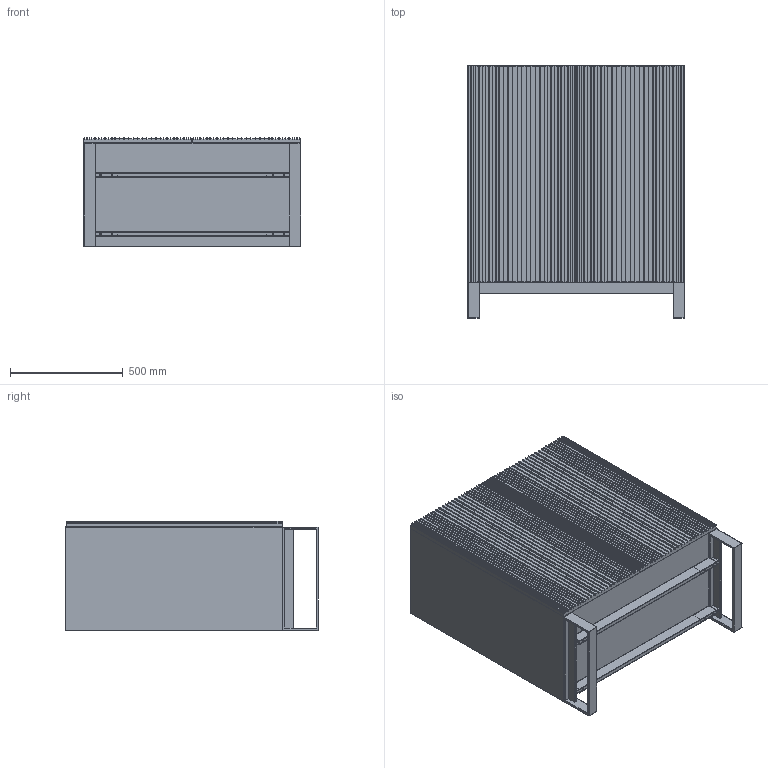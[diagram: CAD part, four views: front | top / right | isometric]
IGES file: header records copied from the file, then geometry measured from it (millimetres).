
Start section: SolidWorks IGES file using analytic representation for surfaces
Global section: file name: C:\Users\serena.trevisiol\Desktop\Nuova cartella\CARLOS cm 96X49X112H.IGS; native system: SolidWorks 2016; preprocessor: SolidWorks 2016; author: serena.trevisiol; date: 160609.090840; units: millimetre
Bounding box: 962 x 1120 x 484 mm (x, y, z)
Surface area: 12063873.5 mm2 (no closed solid volume)
Topology: 0 solids, 0 shells, 852 faces, 5424 edges, 5416 vertices
Faces by surface type: bspline 772, revolution 80
